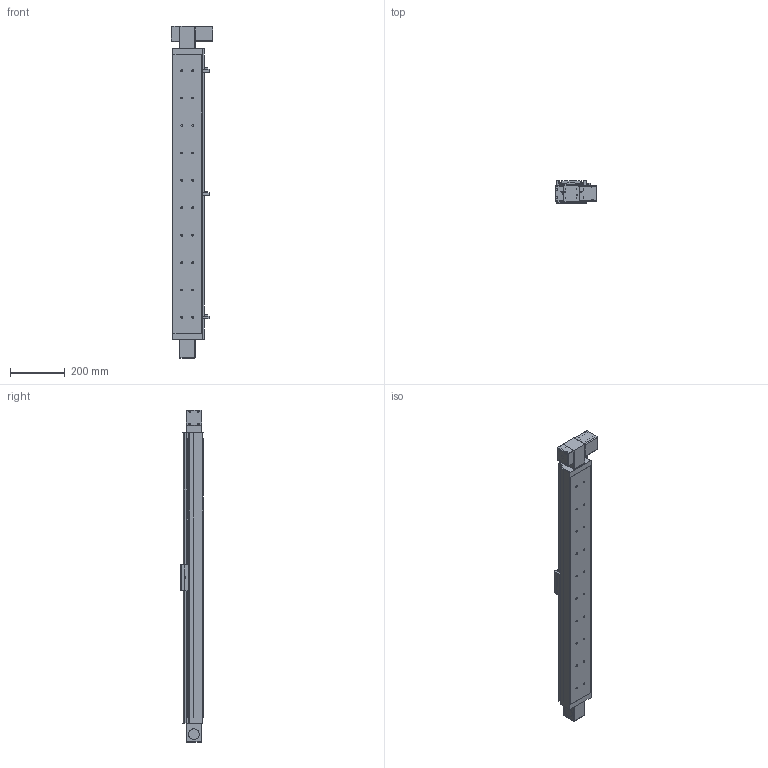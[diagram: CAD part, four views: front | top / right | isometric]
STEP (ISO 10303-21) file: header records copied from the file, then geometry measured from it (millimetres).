
FILE_DESCRIPTION((''),'2;1');
FILE_NAME('E:\uia actuator\UIA actuator 3d- 2015\Belt drive actuator\UIA110BR12(15)DC\UIA110BR12(15)DC-STEP FILE\UIA110BR12(15) stp file 13May16\UIA110BR12(15)DC-900-M23-P13-C10-S.stp','2016-05-13T16:15:33',('h029'),(''),'Autodesk Inventor 11','Autodesk Inventor 11','');
FILE_SCHEMA(('AUTOMOTIVE_DESIGN { 1 0 10303 214 1 1 1 1 }'));
Length unit declared in the file: millimetre
Products named in the file (11): UIA110BR12(15)DC-900; UIA110BR12(15)DC-900-body; UIA110BR12(15)DC-900-Sensor rail; UIA110B-Carriage; UIA110B- Sensor Flag; UIA110B-Cover; SOH-32C; SOH-32C-3; SOH-32C-1; SOH-32C-2; Motor mount
Assembly tree (10 placements, depth 3):
  UIA110BR12(15)DC-900
    UIA110BR12(15)DC-900-body
    UIA110BR12(15)DC-900-Sensor rail
    UIA110B-Carriage
    UIA110B- Sensor Flag
    UIA110B-Cover
    SOH-32C
      SOH-32C-3
      SOH-32C-1
      SOH-32C-2
    Motor mount
Bounding box: 152 x 81 x 1211 mm (x, y, z)
Volume: 3708016.7 mm3; surface area: 1057977.1 mm2
Topology: 9 solids, 13 shells, 756 faces, 2122 edges, 1360 vertices
Faces by surface type: plane 471, cylinder 195, cone 42, bspline 40, sphere 8
Full cylindrical faces by diameter (mm): 2.459 x4, 3 x2, 3.242 x8, 3.5 x4, 4 x10, 4.5 x4, 4.917 x8, 5 x2, 6.35 x1, 6.5 x20, 7.5 x4, 10 x3, 11 x20, 12 x1, 20 x2, 32 x3, 37 x1, 38.1 x1, 39 x2, 43.5 x1, 46 x2
Entity records: 25258 total; most frequent: CARTESIAN_POINT 6397, DIRECTION 3855, ORIENTED_EDGE 3678, EDGE_CURVE 1839, AXIS2_PLACEMENT_3D 1324, VERTEX_POINT 1264, VECTOR 1207, LINE 1207
